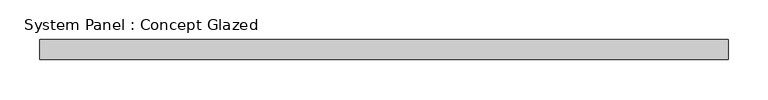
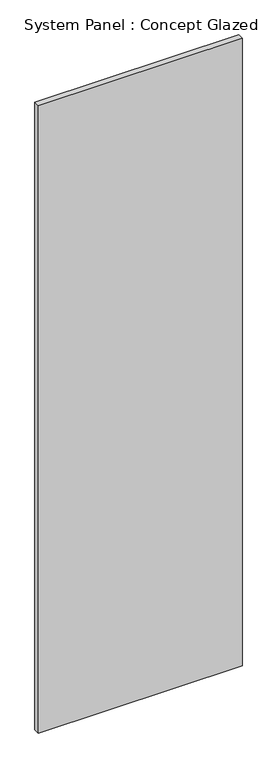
"""IFC4 building model written with IfcOpenShell, lengths in millimetres: plate geometry, System Panel : Concept Glazed."""

from ifc_helpers import new_model, si_unit, origin, origin_with_axes, place, context, project, spatial, polyline, outline, extrude, source, transform, mapped, element, save


def system_panel_concept_glazed_bce8431f(model_context):
    return source(origin(), model_context, "Body", "SweptSolid", [
        extrude(outline(polyline([(430.1125, 27.5), (-430.1125, 27.5), (-430.1125, 52.5), (430.1125, 52.5), (430.1125, 27.5)])), origin_with_axes(), (0.0, 0.0, 1.0), 2800.0),
    ])


if __name__ == "__main__":
    model = new_model("IFC4")
    model_context = context("Model", 3, world=origin())
    ifc_project = project(units=[si_unit("LENGTHUNIT", "METRE", prefix="MILLI")], contexts=[model_context])
    site = spatial("IfcSite", under=ifc_project)
    building = spatial("IfcBuilding", under=site)
    placement = place(None, origin())
    system_panel_concept_glazed_shape = system_panel_concept_glazed_bce8431f(model_context)
    element("IfcPlate", 1, ObjectType="System Panel : Concept Glazed", at=placement, inside=building, context=model_context, shape_type="MappedRepresentation", body=[
        mapped(system_panel_concept_glazed_shape, transform((0.0, 0.0, 0.0), x_axis=(1.0, 0.0, 0.0), y_axis=(0.0, 1.0, 0.0), z_axis=(0.0, 0.0, 1.0))),
    ])
    save(model, "model.ifc")
